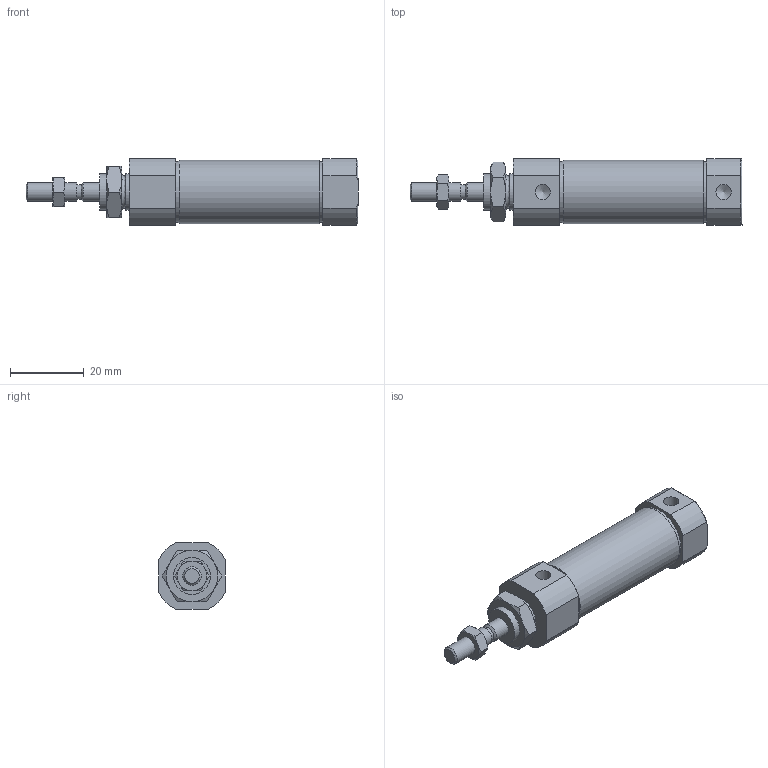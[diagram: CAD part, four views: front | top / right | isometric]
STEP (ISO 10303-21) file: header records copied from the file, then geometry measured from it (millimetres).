
FILE_DESCRIPTION((''),'2;1');
FILE_NAME('I:\3D電子目錄\氣缸\SBA\SBA\SBA16\SBA16X15.stp','2007-10-04T11:52:34',('66-2f-008'),(''),'Autodesk Inventor 11','Autodesk Inventor 11','');
FILE_SCHEMA(('AUTOMOTIVE_DESIGN { 1 0 10303 214 1 1 1 1 }'));
Length unit declared in the file: millimetre
Products named in the file (1): SBA16
Bounding box: 90 x 18 x 18 mm (x, y, z)
Volume: 16942.6 mm3; surface area: 5352.2 mm2
Topology: 1 solids, 1 shells, 88 faces, 192 edges, 117 vertices
Faces by surface type: plane 35, cone 30, cylinder 18, bspline 5
Full cylindrical faces by diameter (mm): 4 x1, 5 x3, 10 x3, 16.54 x2, 17.2 x1
Entity records: 2363 total; most frequent: CARTESIAN_POINT 637, DIRECTION 352, ORIENTED_EDGE 342, EDGE_CURVE 171, AXIS2_PLACEMENT_3D 153, EDGE_LOOP 116, VERTEX_POINT 113, FACE_OUTER_BOUND 88
